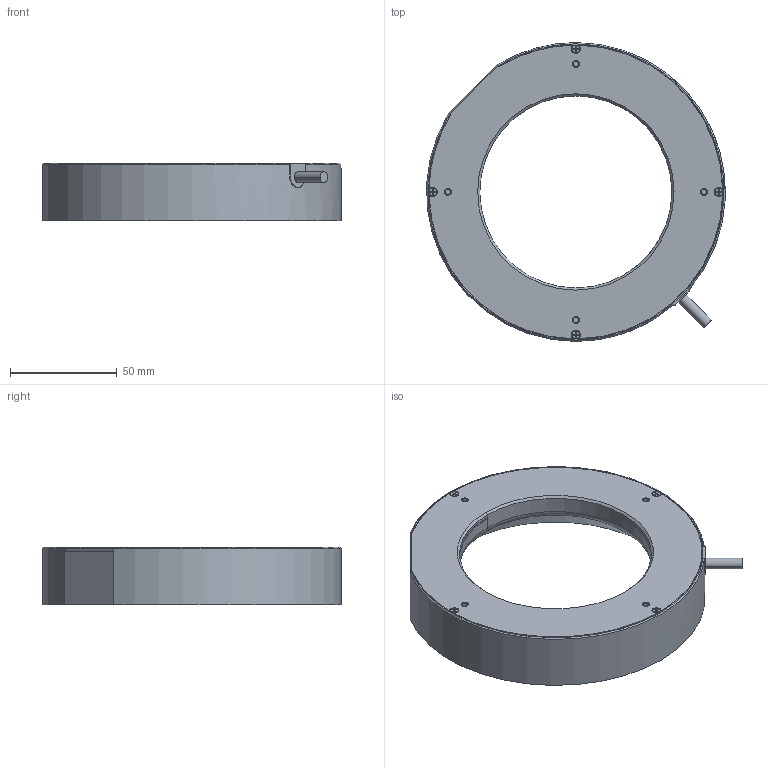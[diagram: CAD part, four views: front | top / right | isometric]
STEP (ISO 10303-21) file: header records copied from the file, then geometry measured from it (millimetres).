
FILE_DESCRIPTION((''),'2;1');
FILE_NAME('MV-LRDS-H-140-45-W_1_1','2022-09-02T17:41:48',('qiaoxuan5'),(''),'CREO PARAMETRIC BY PTC INC, 2020044','CREO PARAMETRIC BY PTC INC, 2020044','');
FILE_SCHEMA(('CONFIG_CONTROL_DESIGN'));
Length unit declared in the file: metre
Products named in the file (1): MV-LRDS-H-140-45-W_1_1
Bounding box: 139.87 x 140 x 27 mm (x, y, z)
Volume: 194884.1 mm3; surface area: 50796.6 mm2
Topology: 1 solids, 17 shells, 529 faces, 1305 edges, 791 vertices
Faces by surface type: plane 262, cylinder 155, cone 82, torus 24, sphere 6
Entity records: 15591 total; most frequent: CARTESIAN_POINT 3036, DIRECTION 2681, ORIENTED_EDGE 2566, EDGE_CURVE 1283, AXIS2_PLACEMENT_3D 982, VERTEX_POINT 791, VECTOR 717, LINE 717
